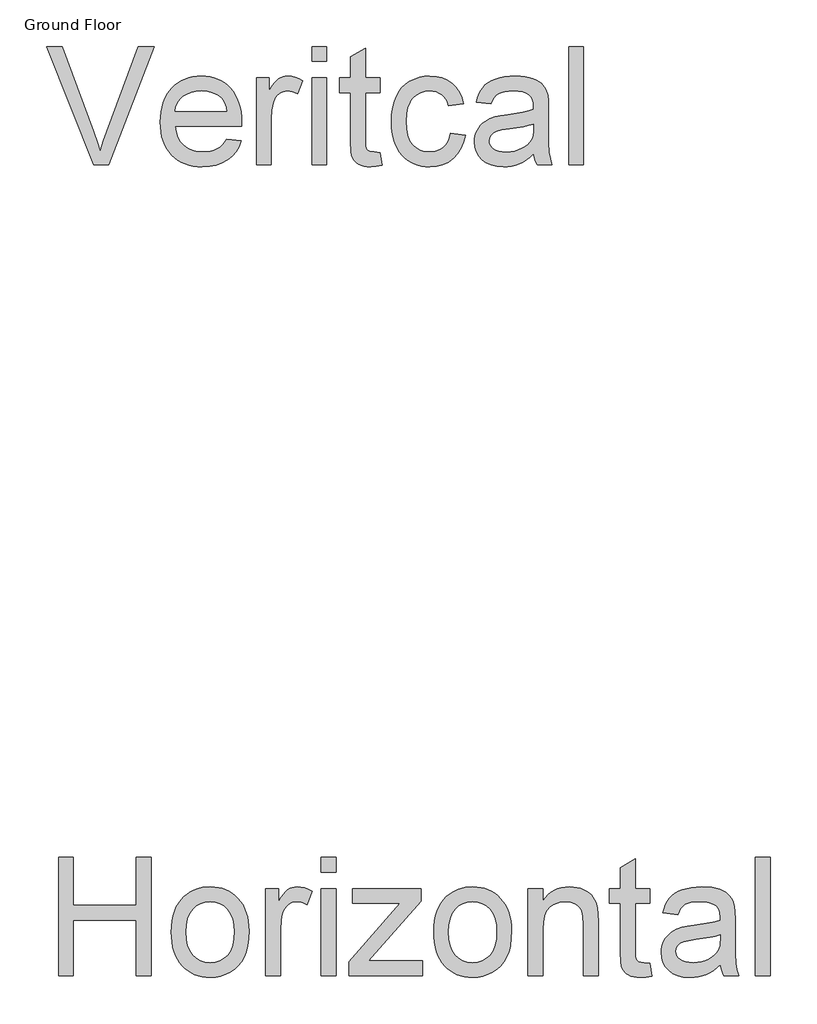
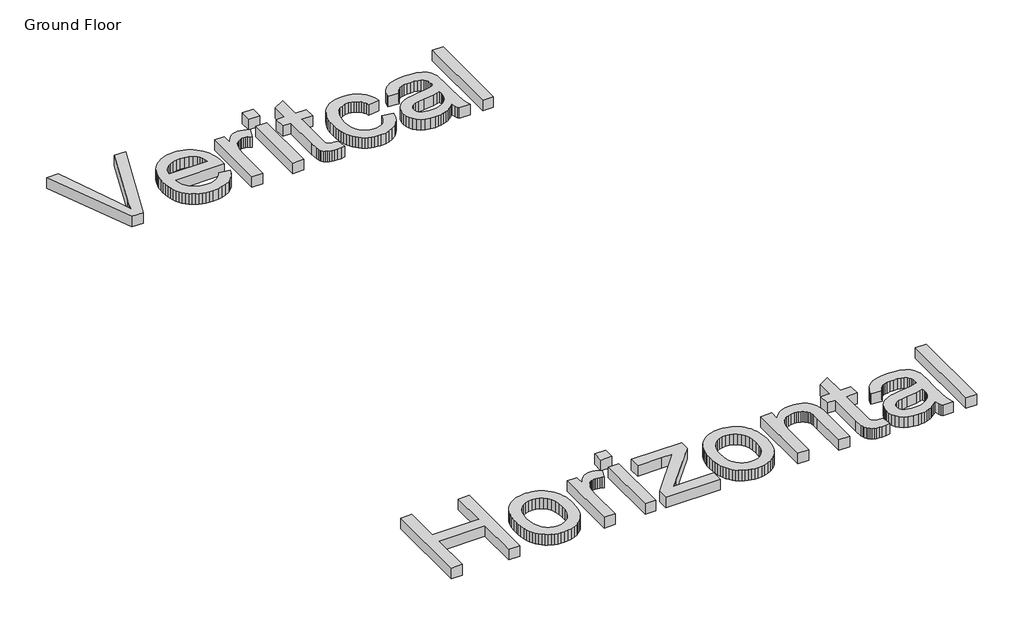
# One storey, part 3 of 5: 2 proxies.
"""IFC4 building model written with IfcOpenShell, lengths in millimetres."""

from ifc_helpers import new_model, si_unit, origin, origin_with_axes, place, context, project, spatial, polyline, outline, extrude, element, save

model = new_model("IFC4")

# Units and contexts
model_context = context("Model", 3, world=origin())
ifc_project = project(units=[si_unit("LENGTHUNIT", "METRE", prefix="MILLI")], contexts=[model_context])

# Site, building, storey
site = spatial("IfcSite", under=ifc_project)
building = spatial("IfcBuilding", under=site)
storey = spatial("IfcBuildingStorey", under=building, Name="Ground Floor", Elevation=0.0)

# Proxies
placement = place(None, origin())
element("IfcBuildingElementProxy", 1, Name="1200mm Arial", ObjectType="1200mm Arial", at=placement, inside=storey, context=model_context, shape_type="SweptSolid", body=[
    extrude(outline(polyline([(-61516.4411736, -12199.8558388), (-61516.4411736, -11024.5831115), (-61369.5320827, -11024.5831115), (-61369.5320827, -11502.037657), (-60745.1684463, -11502.037657), (-60745.1684463, -11024.5831115), (-60598.2593554, -11024.5831115), (-60598.2593554, -12199.8558388), (-60745.1684463, -12199.8558388), (-60745.1684463, -11648.9467479), (-61369.5320827, -11648.9467479), (-61369.5320827, -12199.8558388), (-61516.4411736, -12199.8558388)])), origin_with_axes(), (0.0, 0.0, 1.0), 150.0),
    extrude(outline(polyline([(-60396.2593554, -11768.3103843), (-60394.2732492, -11710.4891396), (-60388.3149307, -11656.5325078), (-60378.3843998, -11606.440489), (-60364.4816565, -11560.2130831), (-60346.6067009, -11517.8502902), (-60324.7595329, -11479.3521101), (-60298.9401526, -11444.718543), (-60269.1485599, -11413.9495888), (-60241.8810706, -11391.5554571), (-60213.1609889, -11372.1472095), (-60182.9883149, -11355.7248463), (-60151.3630486, -11342.2883672), (-60118.2851899, -11331.8377724), (-60083.7547389, -11324.3730618), (-60010.3360599, -11318.4012934), (-59968.8407874, -11320.2192754), (-59929.2867879, -11325.6732216), (-59891.6740615, -11334.763132), (-59856.0026082, -11347.4890064), (-59822.272428, -11363.850845), (-59790.4835209, -11383.8486478), (-59760.6358868, -11407.4824146), (-59732.7295258, -11434.7521456), (-59707.4772842, -11465.227443), (-59685.5920081, -11498.4779091), (-59667.0736975, -11534.5035439), (-59651.9223525, -11573.3043473), (-59640.1379731, -11614.8803195), (-59631.7205592, -11659.2314603), (-59626.6701109, -11706.3577697), (-59624.9866281, -11756.2592479), (-59627.9635457, -11834.8964993), (-59636.8942986, -11904.6747309), (-59651.7788866, -11965.5939425), (-59672.6173099, -12017.6541343), (-59699.1495365, -12062.6217301), (-59731.1155344, -12102.2631541), (-59768.5153035, -12136.5784063), (-59811.348844, -12165.5674865), (-59857.9483646, -12188.6027316), (-59906.6460741, -12205.056478), (-59957.4419726, -12214.9287259), (-60010.3360599, -12218.2194752), (-60052.4858957, -12216.4082181), (-60092.5689257, -12210.9744468), (-60130.5851499, -12201.9181612), (-60166.5345684, -12189.2393615), (-60200.4171812, -12172.9380476), (-60232.2329882, -12153.0142195), (-60261.9819894, -12129.4678772), (-60289.6641849, -12102.2990206), (-60314.647428, -12071.7228487), (-60336.299572, -12037.9545604), (-60354.6206169, -12000.9941556), (-60369.6105628, -11960.8416343), (-60381.2694095, -11917.4969965), (-60389.5971572, -11870.9602422), (-60394.5938058, -11821.2313715), (-60396.2593554, -11768.3103843)]), holes=[polyline([(-60249.3502645, -11768.0234524), (-60245.1000869, -11839.2811762), (-60232.3495542, -11900.9804837), (-60211.0986665, -11953.121375), (-60181.3474236, -11995.7038502), (-60145.158148, -12028.7817088), (-60104.5931622, -12052.4087507), (-60059.6524662, -12066.5849759), (-60010.3360599, -12071.3103843), (-59961.270719, -12066.558076), (-59916.5093554, -12052.3011513), (-59876.051969, -12028.5396101), (-59839.8985599, -11995.2734524), (-59810.147317, -11952.2695462), (-59788.8964292, -11899.2947593), (-59776.1458966, -11836.3490916), (-59771.895719, -11763.4325434), (-59776.1727964, -11694.4344077), (-59789.0040287, -11634.3490916), (-59810.3894157, -11583.1765952), (-59840.3289577, -11540.9169184), (-59876.616866, -11507.8390597), (-59917.0473525, -11484.2120178), (-59961.6204172, -11470.0357926), (-60010.3360599, -11465.3103843), (-60059.6524662, -11470.0178594), (-60104.5931622, -11484.1402848), (-60145.158148, -11507.6776605), (-60181.3474236, -11540.6299865), (-60211.0986665, -11583.086929), (-60232.3495542, -11635.1381541), (-60245.1000869, -11696.783662), (-60249.3502645, -11768.0234524)])]), origin_with_axes(), (0.0, 0.0, 1.0), 150.0),
    extrude(outline(polyline([(-59459.7139008, -12199.8558388), (-59459.7139008, -11336.7649297), (-59331.1684463, -11336.7649297), (-59331.1684463, -11464.4495888), (-59306.9585741, -11423.6335377), (-59283.6812304, -11390.4211797), (-59261.336415, -11364.8125149), (-59239.9241281, -11346.8075434), (-59218.4759747, -11334.379809), (-59196.0235599, -11325.5028559), (-59172.5668838, -11320.176684), (-59148.1059463, -11318.4012934), (-59111.6656054, -11321.2347451), (-59074.9383327, -11329.7351002), (-59037.9241281, -11343.9023587), (-59000.6229917, -11363.7365206), (-59049.6883327, -11495.4382252), (-59075.5121963, -11482.2572948), (-59101.3360599, -11472.8423445), (-59127.1599236, -11467.1933743), (-59152.9837872, -11465.3103843), (-59175.4989683, -11467.1216414), (-59196.8484889, -11472.5554127), (-59217.032349, -11481.6116982), (-59236.0505486, -11494.2904979), (-59253.1857581, -11510.1793473), (-59267.720648, -11528.865782), (-59279.6552183, -11550.3498019), (-59288.989469, -11574.631407), (-59299.4086807, -11614.7301286), (-59306.8509747, -11656.693907), (-59312.8048099, -11746.2166343), (-59312.8048099, -12199.8558388), (-59459.7139008, -12199.8558388)])), origin_with_axes(), (0.0, 0.0, 1.0), 150.0),
    extrude(outline(polyline([(-58908.8048099, -11171.4922024), (-58908.8048099, -11024.5831115), (-58761.895719, -11024.5831115), (-58761.895719, -11171.4922024), (-58908.8048099, -11171.4922024)])), origin_with_axes(), (0.0, 0.0, 1.0), 150.0),
    extrude(outline(polyline([(-58908.8048099, -12199.8558388), (-58908.8048099, -11336.7649297), (-58761.895719, -11336.7649297), (-58761.895719, -12199.8558388), (-58908.8048099, -12199.8558388)])), origin_with_axes(), (0.0, 0.0, 1.0), 150.0),
    extrude(outline(polyline([(-58633.3502645, -12199.8558388), (-58633.3502645, -12061.5547024), (-58126.3417417, -11483.6740206), (-58276.4070827, -11483.6740206), (-58596.6229917, -11483.6740206), (-58596.6229917, -11336.7649297), (-57917.1684463, -11336.7649297), (-57917.1684463, -11461.5802706), (-58366.7906054, -11974.3274297), (-58435.6542417, -12052.9467479), (-58265.7906054, -12052.9467479), (-57898.8048099, -12052.9467479), (-57898.8048099, -12199.8558388), (-58633.3502645, -12199.8558388)])), origin_with_axes(), (0.0, 0.0, 1.0), 150.0),
    extrude(outline(polyline([(-57788.6229917, -11768.3103843), (-57786.6368856, -11710.4891396), (-57780.678567, -11656.5325078), (-57770.7480361, -11606.440489), (-57756.8452929, -11560.2130831), (-57738.9703373, -11517.8502902), (-57717.1231693, -11479.3521101), (-57691.303789, -11444.718543), (-57661.5121963, -11413.9495888), (-57634.2447069, -11391.5554571), (-57605.5246253, -11372.1472095), (-57575.3519513, -11355.7248463), (-57543.7266849, -11342.2883672), (-57510.6488263, -11331.8377724), (-57476.1183753, -11324.3730618), (-57402.6996963, -11318.4012934), (-57361.2044237, -11320.2192754), (-57321.6504243, -11325.6732216), (-57284.0376979, -11334.763132), (-57248.3662446, -11347.4890064), (-57214.6360644, -11363.850845), (-57182.8471572, -11383.8486478), (-57152.9995232, -11407.4824146), (-57125.0931622, -11434.7521456), (-57099.8409205, -11465.227443), (-57077.9556444, -11498.4779091), (-57059.4373339, -11534.5035439), (-57044.2859889, -11573.3043473), (-57032.5016095, -11614.8803195), (-57024.0841956, -11659.2314603), (-57019.0337472, -11706.3577697), (-57017.3502645, -11756.2592479), (-57020.3271821, -11834.8964993), (-57029.2579349, -11904.6747309), (-57044.142523, -11965.5939425), (-57064.9809463, -12017.6541343), (-57091.5131728, -12062.6217301), (-57123.4791707, -12102.2631541), (-57160.8789399, -12136.5784063), (-57203.7124804, -12165.5674865), (-57250.312001, -12188.6027316), (-57299.0097105, -12205.056478), (-57349.8056089, -12214.9287259), (-57402.6996963, -12218.2194752), (-57444.849532, -12216.4082181), (-57484.9325621, -12210.9744468), (-57522.9487863, -12201.9181612), (-57558.8982048, -12189.2393615), (-57592.7808176, -12172.9380476), (-57624.5966246, -12153.0142195), (-57654.3456258, -12129.4678772), (-57682.0278213, -12102.2990206), (-57707.0110644, -12071.7228487), (-57728.6632084, -12037.9545604), (-57746.9842533, -12000.9941556), (-57761.9741991, -11960.8416343), (-57773.6330459, -11917.4969965), (-57781.9607936, -11870.9602422), (-57786.9574422, -11821.2313715), (-57788.6229917, -11768.3103843)]), holes=[polyline([(-57641.7139008, -11768.0234524), (-57637.4637233, -11839.2811762), (-57624.7131906, -11900.9804837), (-57603.4623028, -11953.121375), (-57573.7110599, -11995.7038502), (-57537.5217844, -12028.7817088), (-57496.9567986, -12052.4087507), (-57452.0161025, -12066.5849759), (-57402.6996963, -12071.3103843), (-57353.6343554, -12066.558076), (-57308.8729917, -12052.3011513), (-57268.4156054, -12028.5396101), (-57232.2621963, -11995.2734524), (-57202.5109534, -11952.2695462), (-57181.2600656, -11899.2947593), (-57168.5095329, -11836.3490916), (-57164.2593554, -11763.4325434), (-57168.5364328, -11694.4344077), (-57181.367665, -11634.3490916), (-57202.7530521, -11583.1765952), (-57232.692594, -11540.9169184), (-57268.9805024, -11507.8390597), (-57309.4109889, -11484.2120178), (-57353.9840535, -11470.0357926), (-57402.6996963, -11465.3103843), (-57452.0161025, -11470.0178594), (-57496.9567986, -11484.1402848), (-57537.5217844, -11507.6776605), (-57573.7110599, -11540.6299865), (-57603.4623028, -11583.086929), (-57624.7131906, -11635.1381541), (-57637.4637233, -11696.783662), (-57641.7139008, -11768.0234524)])]), origin_with_axes(), (0.0, 0.0, 1.0), 150.0),
    extrude(outline(polyline([(-56852.0775372, -12199.8558388), (-56852.0775372, -11336.7649297), (-56705.1684463, -11336.7649297), (-56705.1684463, -11457.2762934), (-56680.9316743, -11424.7274652), (-56654.1304491, -11396.5184809), (-56624.7647709, -11372.6493402), (-56592.8346395, -11353.1200434), (-56558.340055, -11337.9305902), (-56521.2810173, -11327.0809809), (-56481.6575265, -11320.5712152), (-56439.4695827, -11318.4012934), (-56402.5002112, -11320.1497841), (-56367.055165, -11325.3952564), (-56333.1344442, -11334.1377103), (-56300.7380486, -11346.3771456), (-56271.0944051, -11361.4589993), (-56245.4319406, -11378.7287081), (-56223.7506551, -11398.186272), (-56206.0505486, -11419.8316911), (-56179.330023, -11469.5784951), (-56162.0065145, -11527.8615206), (-56156.1961452, -11583.5980263), (-56154.2593554, -11669.8927706), (-56154.2593554, -12199.8558388), (-56301.1684463, -12199.8558388), (-56301.1684463, -11689.6910661), (-56305.4006906, -11613.7258672), (-56310.690996, -11583.9746243), (-56318.0974236, -11559.7109524), (-56328.1848703, -11539.276027), (-56341.5182332, -11521.0110235), (-56358.0975123, -11504.9159418), (-56377.9227077, -11490.990782), (-56400.3123561, -11479.755608), (-56424.5849946, -11471.7304837), (-56450.7406231, -11466.9154091), (-56478.7792417, -11465.3103843), (-56523.3881728, -11468.9149652), (-56564.8229207, -11479.7287081), (-56603.0834853, -11497.751613), (-56638.1698667, -11522.9836797), (-56653.8726588, -11539.0204784), (-56667.4817453, -11558.2942266), (-56678.9971262, -11580.8049244), (-56688.4188014, -11606.5525718), (-56700.9810351, -11667.7587152), (-56705.1684463, -11741.912657), (-56705.1684463, -12199.8558388), (-56852.0775372, -12199.8558388)])), origin_with_axes(), (0.0, 0.0, 1.0), 150.0),
    extrude(outline(polyline([(-55640.0775372, -12077.3359524), (-55621.7139008, -12204.1598161), (-55679.889327, -12214.7045604), (-55731.6087872, -12218.2194752), (-55769.1071892, -12216.6951499), (-55802.1222815, -12212.122174), (-55830.6540642, -12204.5005476), (-55854.7025372, -12193.8302706), (-55874.8953639, -12180.6852067), (-55891.8602077, -12165.6392195), (-55905.5970684, -12148.692309), (-55916.1059463, -12129.8444752), (-55923.8889719, -12104.5765419), (-55929.4482758, -12068.3693331), (-55933.895719, -11963.1370888), (-55933.895719, -11483.6740206), (-56044.0775372, -11483.6740206), (-56044.0775372, -11336.7649297), (-55933.895719, -11336.7649297), (-55933.895719, -11127.0177706), (-55786.9866281, -11040.6512934), (-55786.9866281, -11336.7649297), (-55640.0775372, -11336.7649297), (-55640.0775372, -11483.6740206), (-55786.9866281, -11483.6740206), (-55786.9866281, -11958.8331115), (-55785.0498383, -12007.1811229), (-55779.239469, -12034.5831115), (-55769.0892559, -12049.7546314), (-55754.1329349, -12061.4112365), (-55732.9358469, -12068.8355973), (-55704.0633327, -12071.3103843), (-55640.0775372, -12077.3359524)])), origin_with_axes(), (0.0, 0.0, 1.0), 150.0),
    extrude(outline(polyline([(-54942.2593554, -12089.6740206), (-54977.0946714, -12122.3663147), (-55012.4500514, -12149.8579695), (-55048.3254953, -12172.1489851), (-55084.7210031, -12189.2393615), (-55122.0490393, -12201.9181612), (-55160.7220684, -12210.9744468), (-55200.7400905, -12216.4082181), (-55242.1031054, -12218.2194752), (-55307.5145933, -12213.8616982), (-55364.8740571, -12200.7883672), (-55414.1814967, -12178.9994823), (-55455.4369122, -12148.4950434), (-55488.0126402, -12111.2118402), (-55511.2810173, -12069.0866627), (-55525.2420436, -12022.1195107), (-55529.895719, -11970.3103843), (-55528.1382616, -11939.1603487), (-55522.8658895, -11909.4091059), (-55514.0786025, -11881.0566556), (-55501.7764008, -11854.1029979), (-55486.6138476, -11829.1399297), (-55469.2455059, -11806.7592479), (-55449.671376, -11786.9609524), (-55427.8914577, -11769.7450434), (-55379.2923809, -11741.7691911), (-55325.0264008, -11721.5404979), (-55272.1592133, -11710.278424), (-55197.9156054, -11699.4467479), (-55047.7067986, -11676.2052706), (-54989.7107048, -11663.0781399), (-54943.1201508, -11648.9467479), (-54942.2593554, -11616.2365206), (-54944.787942, -11580.6211087), (-54952.373702, -11550.6726002), (-54965.0166352, -11526.3909951), (-54982.7167417, -11507.7762934), (-55013.3108469, -11489.1974581), (-55050.5761167, -11475.9268615), (-55094.5125514, -11467.9645036), (-55145.1201508, -11465.3103843), (-55192.176969, -11467.0768083), (-55232.6343554, -11472.3760803), (-55266.4923099, -11481.2082003), (-55293.7508327, -11493.5731684), (-55316.1494477, -11510.4393793), (-55335.4276792, -11532.775228), (-55351.5855273, -11560.5807145), (-55364.6229917, -11593.8558388), (-55511.5320827, -11575.4922024), (-55500.3507084, -11533.1697593), (-55486.0310173, -11495.1512934), (-55468.5730095, -11461.4368047), (-55447.9766849, -11432.0262934), (-55423.3543483, -11406.3279624), (-55393.8183042, -11383.7500149), (-55359.3685528, -11364.292451), (-55320.005094, -11347.9552706), (-55276.5259569, -11335.0254056), (-55229.7291707, -11325.7897877), (-55179.6147353, -11320.2484169), (-55126.1826508, -11318.4012934), (-55073.9520933, -11320.0332181), (-55026.8683753, -11324.9289922), (-54984.9314967, -11333.0886158), (-54948.1414577, -11344.5120888), (-54916.193393, -11358.4013821), (-54888.7824378, -11373.9584666), (-54865.9085919, -11391.1833424), (-54847.5718554, -11410.0760093), (-54832.7052005, -11431.1027316), (-54820.2415997, -11454.7297735), (-54802.5235599, -11509.7848161), (-54797.1435883, -11560.5717479), (-54795.3502645, -11638.3302706), (-54795.3502645, -11821.1058388), (-54793.4852077, -11980.3171314), (-54787.8900372, -12076.3316911), (-54776.8431622, -12139.4208246), (-54758.6229917, -12199.8558388), (-54905.5320827, -12199.8558388), (-54918.5874804, -12175.3231684), (-54929.0604917, -12148.7819752), (-54942.2593554, -12089.6740206)]), holes=[polyline([(-54942.2593554, -11795.8558388), (-54986.6620542, -11808.570505), (-55040.9639008, -11820.3167763), (-55179.2650372, -11840.9041343), (-55255.4813014, -11852.1662081), (-55305.6585031, -11864.7194752), (-55338.5480628, -11881.0028559), (-55362.9014008, -11903.4552706), (-55377.9653213, -11930.3551286), (-55382.9866281, -11959.9808388), (-55380.2518092, -11982.8098516), (-55372.0473525, -12003.6662081), (-55358.3732581, -12022.5499084), (-55339.2295258, -12039.4609524), (-55314.7954882, -12053.3950789), (-55285.2504775, -12063.3480263), (-55250.5944939, -12069.3197948), (-55210.8275372, -12071.3103843), (-55170.2266849, -12069.1135625), (-55131.9212872, -12062.5230973), (-55095.911344, -12051.5389887), (-55062.1968554, -12036.1612365), (-55031.7820827, -12017.6631009), (-55005.6712872, -11997.3178416), (-54983.864469, -11975.1254588), (-54966.3616281, -11951.0859524), (-54956.1934818, -11929.5660661), (-54948.9305202, -11903.4552706), (-54944.5727432, -11872.7535661), (-54943.1201508, -11837.4609524), (-54942.2593554, -11795.8558388)])]), origin_with_axes(), (0.0, 0.0, 1.0), 150.0),
    extrude(outline(polyline([(-54593.3502645, -12199.8558388), (-54593.3502645, -11024.5831115), (-54446.4411736, -11024.5831115), (-54446.4411736, -12199.8558388), (-54593.3502645, -12199.8558388)])), origin_with_axes(), (0.0, 0.0, 1.0), 150.0),
])
element("IfcBuildingElementProxy", 2, Name="1200mm Arial", ObjectType="1200mm Arial", at=placement, inside=storey, context=model_context, shape_type="SweptSolid", body=[
    extrude(outline(polyline([(-61169.2536736, -4149.4390061), (-61636.9525372, -2974.1662788), (-61479.7139008, -2974.1662788), (-61166.6712872, -3820.9020743), (-61131.8808042, -3919.5348868), (-61103.2593554, -4011.7117334), (-61074.1357758, -3916.2351709), (-61040.708219, -3820.9020743), (-60726.8048099, -2974.1662788), (-60569.5661736, -2974.1662788), (-61017.4667417, -4149.4390061), (-61169.2536736, -4149.4390061)])), origin_with_axes(), (0.0, 0.0, 1.0), 150.0),
    extrude(outline(polyline([(-59847.0718554, -3892.348097), (-59703.0320827, -3910.7117334), (-59725.116866, -3968.4029621), (-59754.9308753, -4019.2436936), (-59792.4741103, -4063.233928), (-59837.7465713, -4100.3736652), (-59890.2819939, -4129.8738428), (-59949.6141139, -4150.9453982), (-60015.7429314, -4163.5883314), (-60088.6684463, -4167.8026425), (-60135.4876491, -4165.9846604), (-60179.8230983, -4160.5307142), (-60221.6747939, -4151.4408039), (-60261.0427361, -4138.7149294), (-60297.9269246, -4122.3530908), (-60332.3273596, -4102.3552881), (-60364.2440411, -4078.7215212), (-60393.676969, -4051.4517902), (-60420.1060795, -4020.9002765), (-60443.0113085, -3987.4211617), (-60462.3926562, -3951.0144456), (-60478.2501224, -3911.6801283), (-60490.5837073, -3869.4182098), (-60499.3934108, -3824.2286901), (-60504.6792329, -3776.1115691), (-60506.4411736, -3725.066847), (-60504.6612996, -3672.2848424), (-60499.3216778, -3622.5425217), (-60490.4223081, -3575.839885), (-60477.9631906, -3532.1769323), (-60461.9443252, -3491.5536634), (-60442.3657119, -3453.9700786), (-60419.2273508, -3419.4261776), (-60392.5292417, -3387.9219607), (-60362.9931977, -3359.8116091), (-60331.3410315, -3335.4493044), (-60297.5727432, -3314.8350466), (-60261.6883327, -3297.9688357), (-60223.6878, -3284.8506716), (-60183.5711452, -3275.4805544), (-60141.3383682, -3269.8584841), (-60096.989469, -3267.9844607), (-60054.0909205, -3269.8540008), (-60013.1964115, -3275.4626212), (-59974.3059418, -3284.8103218), (-59937.4195116, -3297.8971027), (-59902.5371208, -3314.7229639), (-59869.6587694, -3335.2879053), (-59838.7844575, -3359.5919269), (-59809.9141849, -3387.6350288), (-59783.7876979, -3419.0675129), (-59761.1447425, -3453.5396808), (-59741.9853186, -3491.0515327), (-59726.3094264, -3531.6030686), (-59714.1170658, -3575.1942884), (-59705.4082368, -3621.8251922), (-59700.1829394, -3671.4957799), (-59698.4411736, -3724.2060516), (-59699.301969, -3763.8026425), (-60359.5320827, -3763.8026425), (-60351.0227609, -3822.4263996), (-60334.1027503, -3873.7692618), (-60308.7720507, -3917.8312291), (-60275.0306622, -3954.6123016), (-60234.7436416, -3983.6103484), (-60189.7760457, -4004.3232391), (-60140.1278746, -4016.7509734), (-60085.7991281, -4020.8935516), (-60045.1624094, -4018.974695), (-60007.6102077, -4013.2181254), (-59973.142523, -4003.6238428), (-59941.7593554, -3990.191847), (-59913.4607048, -3972.5634734), (-59888.2465713, -3950.3800573), (-59866.1169548, -3923.6415984), (-59847.0718554, -3892.348097)]), holes=[polyline([(-60359.5320827, -3616.8935516), (-59845.3502645, -3616.8935516), (-59852.9001579, -3575.3243044), (-59865.2202929, -3539.2784948), (-59882.3106693, -3508.7561226), (-59904.1712872, -3483.7571879), (-59944.2341423, -3453.629347), (-59989.8204349, -3432.1094607), (-60040.930165, -3419.1975288), (-60097.5633327, -3414.8935516), (-60149.2200265, -3418.3277668), (-60196.5906764, -3428.6304124), (-60239.6752822, -3445.8014884), (-60278.473844, -3469.8409948), (-60311.0316388, -3499.6370707), (-60335.3939434, -3534.0778555), (-60351.5607581, -3573.1633492), (-60359.5320827, -3616.8935516)])]), origin_with_axes(), (0.0, 0.0, 1.0), 150.0),
    extrude(outline(polyline([(-59551.5320827, -4149.4390061), (-59551.5320827, -3286.348097), (-59422.9866281, -3286.348097), (-59422.9866281, -3414.0327561), (-59398.7767559, -3373.216705), (-59375.4994122, -3340.004347), (-59353.1545969, -3314.3956823), (-59331.7423099, -3296.3907107), (-59310.2941565, -3283.9629763), (-59287.8417417, -3275.0860232), (-59264.3850656, -3269.7598513), (-59239.9241281, -3267.9844607), (-59203.4837872, -3270.8179124), (-59166.7565145, -3279.3182675), (-59129.7423099, -3293.485526), (-59092.4411736, -3313.3196879), (-59141.5065145, -3445.0213925), (-59167.3303781, -3431.8404621), (-59193.1542417, -3422.4255118), (-59218.9781054, -3416.7765416), (-59244.801969, -3414.8935516), (-59267.3171501, -3416.7048087), (-59288.6666707, -3422.13858), (-59308.8505308, -3431.1948655), (-59327.8687304, -3443.8736652), (-59345.0039399, -3459.7625146), (-59359.5388298, -3478.4489493), (-59371.4734001, -3499.9329692), (-59380.8076508, -3524.2145743), (-59391.2268625, -3564.3132959), (-59398.6691565, -3606.2770743), (-59404.6229917, -3695.7998016), (-59404.6229917, -4149.4390061), (-59551.5320827, -4149.4390061)])), origin_with_axes(), (0.0, 0.0, 1.0), 150.0),
    extrude(outline(polyline([(-59000.6229917, -3121.0753698), (-59000.6229917, -2974.1662788), (-58853.7139008, -2974.1662788), (-58853.7139008, -3121.0753698), (-59000.6229917, -3121.0753698)])), origin_with_axes(), (0.0, 0.0, 1.0), 150.0),
    extrude(outline(polyline([(-59000.6229917, -4149.4390061), (-59000.6229917, -3286.348097), (-58853.7139008, -3286.348097), (-58853.7139008, -4149.4390061), (-59000.6229917, -4149.4390061)])), origin_with_axes(), (0.0, 0.0, 1.0), 150.0),
    extrude(outline(polyline([(-58321.1684463, -4026.9191198), (-58302.8048099, -4153.7429834), (-58360.9802361, -4164.2877277), (-58412.6996963, -4167.8026425), (-58450.1980983, -4166.2783172), (-58483.2131906, -4161.7053413), (-58511.7449733, -4154.0837149), (-58535.7934463, -4143.4134379), (-58555.986273, -4130.268374), (-58572.9511167, -4115.2223868), (-58586.6879775, -4098.2754763), (-58597.1968554, -4079.4276425), (-58604.9798809, -4054.1597092), (-58610.5391849, -4017.9525004), (-58614.9866281, -3912.7202561), (-58614.9866281, -3433.2571879), (-58725.1684463, -3433.2571879), (-58725.1684463, -3286.348097), (-58614.9866281, -3286.348097), (-58614.9866281, -3076.6009379), (-58468.0775372, -2990.2344607), (-58468.0775372, -3286.348097), (-58321.1684463, -3286.348097), (-58321.1684463, -3433.2571879), (-58468.0775372, -3433.2571879), (-58468.0775372, -3908.4162788), (-58466.1407474, -3956.7642902), (-58460.3303781, -3984.1662788), (-58450.180165, -3999.3377987), (-58435.223844, -4010.9944038), (-58414.0267559, -4018.4187646), (-58385.1542417, -4020.8935516), (-58321.1684463, -4026.9191198)])), origin_with_axes(), (0.0, 0.0, 1.0), 150.0),
    extrude(outline(polyline([(-57623.3502645, -3837.2571879), (-57476.4411736, -3855.6208243), (-57492.4196892, -3924.9417582), (-57517.4006906, -3986.282401), (-57551.3841778, -4039.6427526), (-57594.3701508, -4085.0228129), (-57644.5473525, -4121.2389884), (-57700.1045258, -4147.1076851), (-57761.0416707, -4162.6289031), (-57827.3587872, -4167.8026425), (-57869.6207057, -4165.9981103), (-57909.7530521, -4160.5845139), (-57947.7558264, -4151.5618532), (-57983.6290287, -4138.9301283), (-58017.3726588, -4122.689339), (-58048.9867169, -4102.8394855), (-58078.4712029, -4079.3805677), (-58105.8261167, -4052.3125857), (-58130.4731116, -4021.8731547), (-58151.8338405, -3988.2998903), (-58169.9083034, -3951.5927925), (-58184.6965003, -3911.7518612), (-58196.1984312, -3868.7770965), (-58204.4140961, -3822.6684983), (-58209.3434951, -3773.4260667), (-58210.9866281, -3721.0498016), (-58208.1800763, -3653.5042582), (-58199.7604207, -3590.3164919), (-58185.7276615, -3531.4865026), (-58166.0817986, -3477.0142902), (-58140.6883327, -3427.9937824), (-58109.4127645, -3385.5189067), (-58072.255094, -3349.5896631), (-58029.2153213, -3320.2060516), (-57982.2392027, -3297.3591055), (-57933.2724946, -3281.0398584), (-57882.315197, -3271.2483101), (-57829.3673099, -3267.9844607), (-57764.1889541, -3272.4677703), (-57705.2334321, -3285.9176993), (-57652.5007439, -3308.3342476), (-57605.9908895, -3339.7174152), (-57566.4929314, -3379.3498726), (-57534.7959321, -3426.5142902), (-57510.8998916, -3481.210668), (-57494.8048099, -3543.4390061), (-57641.7139008, -3561.8026425), (-57653.1822069, -3527.4873903), (-57668.3626934, -3497.7092476), (-57687.2553603, -3472.4682142), (-57709.8602077, -3451.7642902), (-57735.6033717, -3435.6333421), (-57763.9109889, -3424.1112362), (-57794.7830592, -3417.1979727), (-57828.2195827, -3414.8935516), (-57878.1367524, -3419.4306609), (-57923.158148, -3433.0419891), (-57963.2837694, -3455.7275359), (-57998.5136167, -3487.4873016), (-58013.8801606, -3506.9538321), (-58027.1978319, -3529.0565487), (-58047.6865571, -3581.1705402), (-58059.9797922, -3643.829276), (-58064.0775372, -3717.0327561), (-58060.0694584, -3791.3391304), (-58048.0452219, -3854.7241624), (-58028.0048277, -3907.187852), (-58014.9785715, -3929.3241934), (-57999.9482758, -3948.7301993), (-57965.4178248, -3980.3016659), (-57925.9557332, -4002.8527135), (-57881.562001, -4016.3833421), (-57832.2366281, -4020.8935516), (-57792.4876047, -4018.0780331), (-57756.1638298, -4009.6314777), (-57723.2653035, -3995.5538854), (-57693.7920258, -3975.8452561), (-57668.5689257, -3950.2903911), (-57648.4209321, -3918.6740913), (-57633.348045, -3880.996357), (-57623.3502645, -3837.2571879)])), origin_with_axes(), (0.0, 0.0, 1.0), 150.0),
    extrude(outline(polyline([(-56796.9866281, -4039.2571879), (-56831.8219442, -4071.949482), (-56867.1773241, -4099.4411368), (-56903.052768, -4121.7321524), (-56939.4482758, -4138.8225288), (-56976.7763121, -4151.5013286), (-57015.4493412, -4160.5576141), (-57055.4673632, -4165.9913854), (-57096.8303781, -4167.8026425), (-57162.241866, -4163.4448655), (-57219.6013298, -4150.3715345), (-57268.9087694, -4128.5826496), (-57310.1641849, -4098.0782107), (-57342.7399129, -4060.7950075), (-57366.00829, -4018.66983), (-57379.9693163, -3971.702678), (-57384.6229917, -3919.8935516), (-57382.8655344, -3888.7435161), (-57377.5931622, -3858.9922732), (-57368.8058753, -3830.6398229), (-57356.5036736, -3803.6861652), (-57341.3411203, -3778.723097), (-57323.9727787, -3756.3424152), (-57304.3986487, -3736.5441198), (-57282.6187304, -3719.3282107), (-57234.0196537, -3691.3523584), (-57179.7536736, -3671.1236652), (-57126.8864861, -3659.8615913), (-57052.6428781, -3649.0299152), (-56902.4340713, -3625.7884379), (-56844.4379775, -3612.6613073), (-56797.8474236, -3598.5299152), (-56796.9866281, -3565.8196879), (-56799.5152148, -3530.204276), (-56807.1009747, -3500.2557675), (-56819.7439079, -3475.9741624), (-56837.4440145, -3457.3594607), (-56868.0381196, -3438.7806254), (-56905.3033895, -3425.5100288), (-56949.2398241, -3417.5476709), (-56999.8474236, -3414.8935516), (-57046.9042417, -3416.6599756), (-57087.3616281, -3421.9592476), (-57121.2195827, -3430.7913676), (-57148.4781054, -3443.1563357), (-57170.8767204, -3460.0225466), (-57190.154952, -3482.3583953), (-57206.3128, -3510.1638818), (-57219.3502645, -3543.4390061), (-57366.2593554, -3525.0753698), (-57355.0779811, -3482.7529266), (-57340.75829, -3444.7344607), (-57323.3002822, -3411.019972), (-57302.7039577, -3381.6094607), (-57278.081621, -3355.9111297), (-57248.545577, -3333.3331823), (-57214.0958255, -3313.8756183), (-57174.7323667, -3297.5384379), (-57131.2532297, -3284.6085729), (-57084.4564434, -3275.372955), (-57034.3420081, -3269.8315842), (-56980.9099236, -3267.9844607), (-56928.679366, -3269.6163854), (-56881.595648, -3274.5121595), (-56839.6587694, -3282.6717831), (-56802.8687304, -3294.0952561), (-56770.9206657, -3307.9845494), (-56743.5097105, -3323.541634), (-56720.6358646, -3340.7665097), (-56702.2991281, -3359.6591766), (-56687.4324733, -3380.6858989), (-56674.9688724, -3404.3129408), (-56657.2508327, -3459.3679834), (-56651.8708611, -3510.1549152), (-56650.0775372, -3587.9134379), (-56650.0775372, -3770.6890061), (-56648.2124804, -3929.9002987), (-56642.6173099, -4025.9148584), (-56631.5704349, -4089.0039919), (-56613.3502645, -4149.4390061), (-56760.2593554, -4149.4390061), (-56773.3147531, -4124.9063357), (-56783.7877645, -4098.3651425), (-56796.9866281, -4039.2571879)]), holes=[polyline([(-56796.9866281, -3745.4390061), (-56841.389327, -3758.1536723), (-56895.6911736, -3769.8999436), (-57033.9923099, -3790.4873016), (-57110.2085741, -3801.7493754), (-57160.3857758, -3814.3026425), (-57193.2753355, -3830.5860232), (-57217.6286736, -3853.0384379), (-57232.692594, -3879.9382959), (-57237.7139008, -3909.5640061), (-57234.9790819, -3932.3930189), (-57226.7746253, -3953.2493754), (-57213.1005308, -3972.1330757), (-57193.9567986, -3989.0441198), (-57169.5227609, -4002.9782462), (-57139.9777503, -4012.9311936), (-57105.3217666, -4018.9029621), (-57065.5548099, -4020.8935516), (-57024.9539577, -4018.6967298), (-56986.6485599, -4012.1062646), (-56950.6386167, -4001.122156), (-56916.9241281, -3985.7444038), (-56886.5093554, -3967.2462682), (-56860.3985599, -3946.901009), (-56838.5917417, -3924.7086261), (-56821.0889008, -3900.6691198), (-56810.9207545, -3879.1492334), (-56803.6577929, -3853.0384379), (-56799.3000159, -3822.3367334), (-56797.8474236, -3787.0441198), (-56796.9866281, -3745.4390061)])]), origin_with_axes(), (0.0, 0.0, 1.0), 150.0),
    extrude(outline(polyline([(-56448.0775372, -4149.4390061), (-56448.0775372, -2974.1662788), (-56301.1684463, -2974.1662788), (-56301.1684463, -4149.4390061), (-56448.0775372, -4149.4390061)])), origin_with_axes(), (0.0, 0.0, 1.0), 150.0),
])

save(model, "model.ifc")
